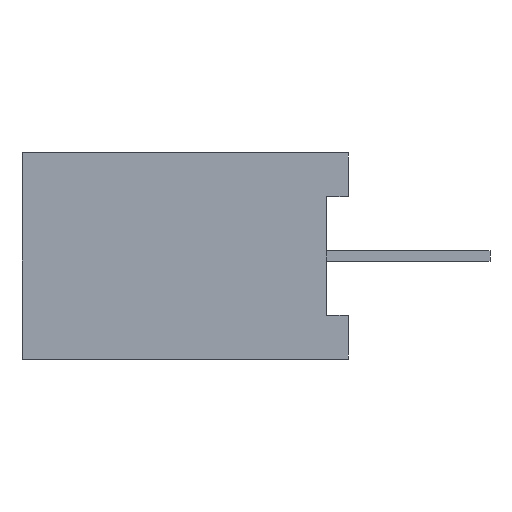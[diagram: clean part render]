
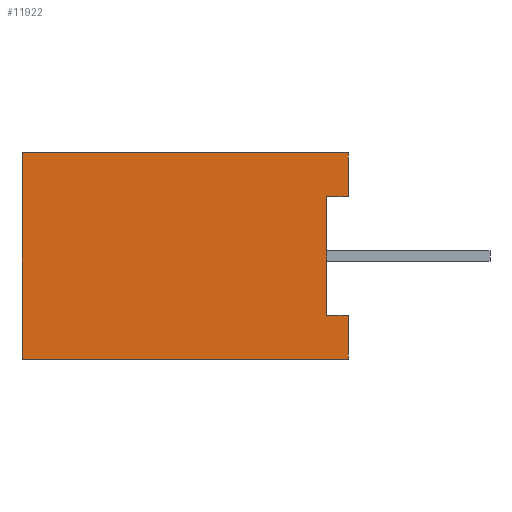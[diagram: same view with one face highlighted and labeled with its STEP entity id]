
A CAD part, left-side view. The second image highlights one B-rep face of the part: STEP entity #11922.
In plain terms, the highlighted planar face has unit normal (-1, 0, 0).
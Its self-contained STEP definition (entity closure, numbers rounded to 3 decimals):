
#11717 = EDGE_CURVE ( 'NONE', #11719, #11808, #31850, .T. ) ;
#11719 = VERTEX_POINT ( 'NONE', #31843 ) ;
#11732 = VERTEX_POINT ( 'NONE', #31892 ) ;
#11735 = EDGE_CURVE ( 'NONE', #11736, #11732, #31891, .T. ) ;
#11736 = VERTEX_POINT ( 'NONE', #31887 ) ;
#11775 = VERTEX_POINT ( 'NONE', #31924 ) ;
#11777 = ORIENTED_EDGE ( 'NONE', *, *, #11778, .F. ) ;
#11778 = EDGE_CURVE ( 'NONE', #11779, #11775, #31923, .T. ) ;
#11779 = VERTEX_POINT ( 'NONE', #31919 ) ;
#11781 = ORIENTED_EDGE ( 'NONE', *, *, #11783, .F. ) ;
#11783 = EDGE_CURVE ( 'NONE', #11719, #11779, #31918, .T. ) ;
#11787 = VERTEX_POINT ( 'NONE', #31910 ) ;
#11791 = EDGE_CURVE ( 'NONE', #11808, #11787, #31909, .T. ) ;
#11806 = EDGE_CURVE ( 'NONE', #11787, #11848, #31959, .T. ) ;
#11808 = VERTEX_POINT ( 'NONE', #31951 ) ;
#11847 = EDGE_CURVE ( 'NONE', #11848, #11736, #31984, .T. ) ;
#11848 = VERTEX_POINT ( 'NONE', #31980 ) ;
#11895 = ORIENTED_EDGE ( 'NONE', *, *, #11717, .T. ) ;
#11897 = ORIENTED_EDGE ( 'NONE', *, *, #11791, .T. ) ;
#11899 = ORIENTED_EDGE ( 'NONE', *, *, #11806, .T. ) ;
#11901 = ORIENTED_EDGE ( 'NONE', *, *, #11847, .T. ) ;
#11922 = ADVANCED_FACE ( 'NONE', ( #32005 ), #32004, .F. ) ;
#11923 = EDGE_LOOP ( 'NONE', ( #11924, #11925, #11777, #11781, #11895, #11897, #11899, #11901 ) ) ;
#11924 = ORIENTED_EDGE ( 'NONE', *, *, #11735, .T. ) ;
#11925 = ORIENTED_EDGE ( 'NONE', *, *, #11926, .F. ) ;
#11926 = EDGE_CURVE ( 'NONE', #11775, #11732, #32062, .T. ) ;
#31843 = CARTESIAN_POINT ( 'NONE',  ( -9.55, -0.508, 1.384 ) ) ;
#31844 = DIRECTION ( 'NONE',  ( 0., 0., 1. ) ) ;
#31845 = VECTOR ( 'NONE', #31844, 1000. ) ;
#31846 = CARTESIAN_POINT ( 'NONE',  ( -9.55, -0.508, 2.4 ) ) ;
#31850 = LINE ( 'NONE', #31846, #31845 ) ;
#31887 = CARTESIAN_POINT ( 'NONE',  ( -9.55, -0.508, -2.4 ) ) ;
#31888 = DIRECTION ( 'NONE',  ( 0., 0., 1. ) ) ;
#31889 = VECTOR ( 'NONE', #31888, 1000. ) ;
#31890 = CARTESIAN_POINT ( 'NONE',  ( -9.55, -0.508, 2.4 ) ) ;
#31891 = LINE ( 'NONE', #31890, #31889 ) ;
#31892 = CARTESIAN_POINT ( 'NONE',  ( -9.55, -0.508, -1.384 ) ) ;
#31906 = DIRECTION ( 'NONE',  ( 0., 1., 0. ) ) ;
#31907 = VECTOR ( 'NONE', #31906, 1000. ) ;
#31908 = CARTESIAN_POINT ( 'NONE',  ( -9.55, 7.092, 2.4 ) ) ;
#31909 = LINE ( 'NONE', #31908, #31907 ) ;
#31910 = CARTESIAN_POINT ( 'NONE',  ( -9.55, 7.092, 2.4 ) ) ;
#31915 = DIRECTION ( 'NONE',  ( 0., 1., 0. ) ) ;
#31916 = VECTOR ( 'NONE', #31915, 1000. ) ;
#31917 = CARTESIAN_POINT ( 'NONE',  ( -9.55, -0.508, 1.384 ) ) ;
#31918 = LINE ( 'NONE', #31917, #31916 ) ;
#31919 = CARTESIAN_POINT ( 'NONE',  ( -9.55, 0., 1.384 ) ) ;
#31920 = DIRECTION ( 'NONE',  ( 0., 0., -1. ) ) ;
#31921 = VECTOR ( 'NONE', #31920, 1000. ) ;
#31922 = CARTESIAN_POINT ( 'NONE',  ( -9.55, 0., -1.384 ) ) ;
#31923 = LINE ( 'NONE', #31922, #31921 ) ;
#31924 = CARTESIAN_POINT ( 'NONE',  ( -9.55, 0., -1.384 ) ) ;
#31951 = CARTESIAN_POINT ( 'NONE',  ( -9.55, -0.508, 2.4 ) ) ;
#31956 = DIRECTION ( 'NONE',  ( 0., 0., -1. ) ) ;
#31957 = VECTOR ( 'NONE', #31956, 1000. ) ;
#31958 = CARTESIAN_POINT ( 'NONE',  ( -9.55, 7.092, -2.4 ) ) ;
#31959 = LINE ( 'NONE', #31958, #31957 ) ;
#31980 = CARTESIAN_POINT ( 'NONE',  ( -9.55, 7.092, -2.4 ) ) ;
#31981 = DIRECTION ( 'NONE',  ( 0., -1., 0. ) ) ;
#31982 = VECTOR ( 'NONE', #31981, 1000. ) ;
#31983 = CARTESIAN_POINT ( 'NONE',  ( -9.55, -0.508, -2.4 ) ) ;
#31984 = LINE ( 'NONE', #31983, #31982 ) ;
#32001 = DIRECTION ( 'NONE',  ( 1., 0., 0. ) ) ;
#32002 = CARTESIAN_POINT ( 'NONE',  ( -9.55, 7.092, -2.4 ) ) ;
#32003 = AXIS2_PLACEMENT_3D ( 'NONE', #32002, #32001, #32063 ) ;
#32004 = PLANE ( 'NONE',  #32003 ) ;
#32005 = FACE_OUTER_BOUND ( 'NONE', #11923, .T. ) ;
#32059 = DIRECTION ( 'NONE',  ( 0., -1., 0. ) ) ;
#32060 = VECTOR ( 'NONE', #32059, 1000. ) ;
#32061 = CARTESIAN_POINT ( 'NONE',  ( -9.55, -0.508, -1.384 ) ) ;
#32062 = LINE ( 'NONE', #32061, #32060 ) ;
#32063 = DIRECTION ( 'NONE',  ( 0., 0., -1. ) ) ;
